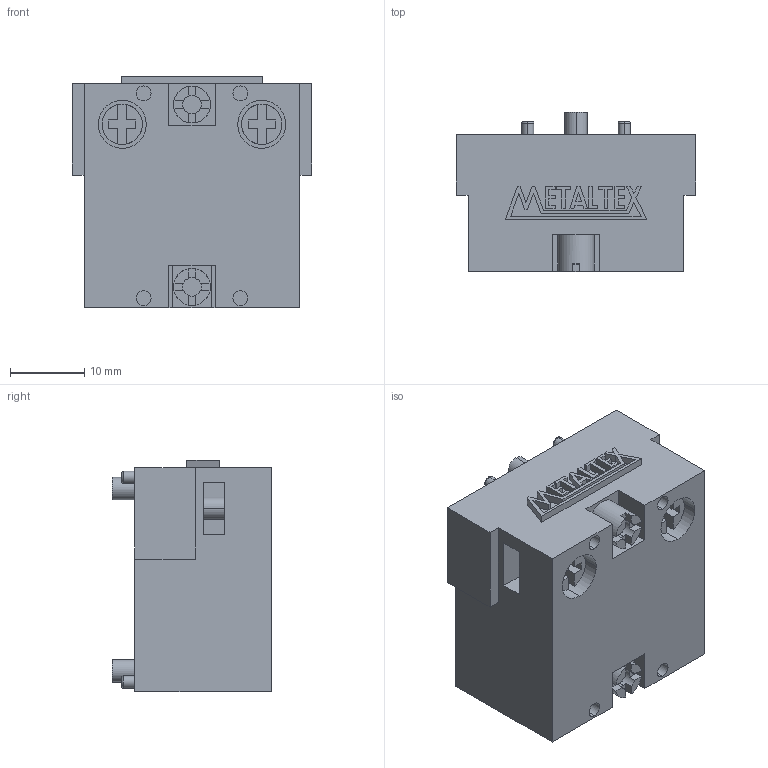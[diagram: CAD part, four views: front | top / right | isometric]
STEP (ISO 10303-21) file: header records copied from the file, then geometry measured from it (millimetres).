
FILE_DESCRIPTION (( 'STEP AP203' ), '1' );
FILE_NAME ('M20-IL.STEP', '2018-01-17T13:43:27', ( '' ), ( '' ), 'SwSTEP 2.0', 'SolidWorks 2012', '' );
FILE_SCHEMA (( 'CONFIG_CONTROL_DESIGN' ));
Length unit declared in the file: millimetre
Products named in the file (3): M20-IL; METALTEX 18,98
Assembly tree (2 placements, depth 2):
  M20-IL
    M20-IL
    METALTEX 18,98
Bounding box: 32.15 x 21.4 x 31.15 mm (x, y, z)
Volume: 15767.8 mm3; surface area: 5515.1 mm2
Topology: 8 solids, 8 shells, 252 faces, 646 edges, 428 vertices
Faces by surface type: plane 202, cylinder 42, torus 8
Entity records: 7915 total; most frequent: CARTESIAN_POINT 1331, DIRECTION 1300, ORIENTED_EDGE 1292, EDGE_CURVE 646, LINE 506, VECTOR 506, VERTEX_POINT 428, AXIS2_PLACEMENT_3D 397
